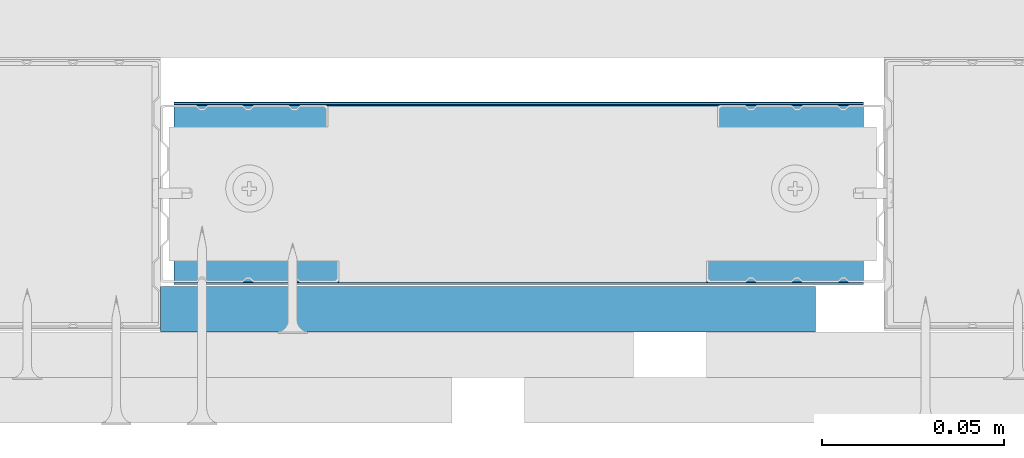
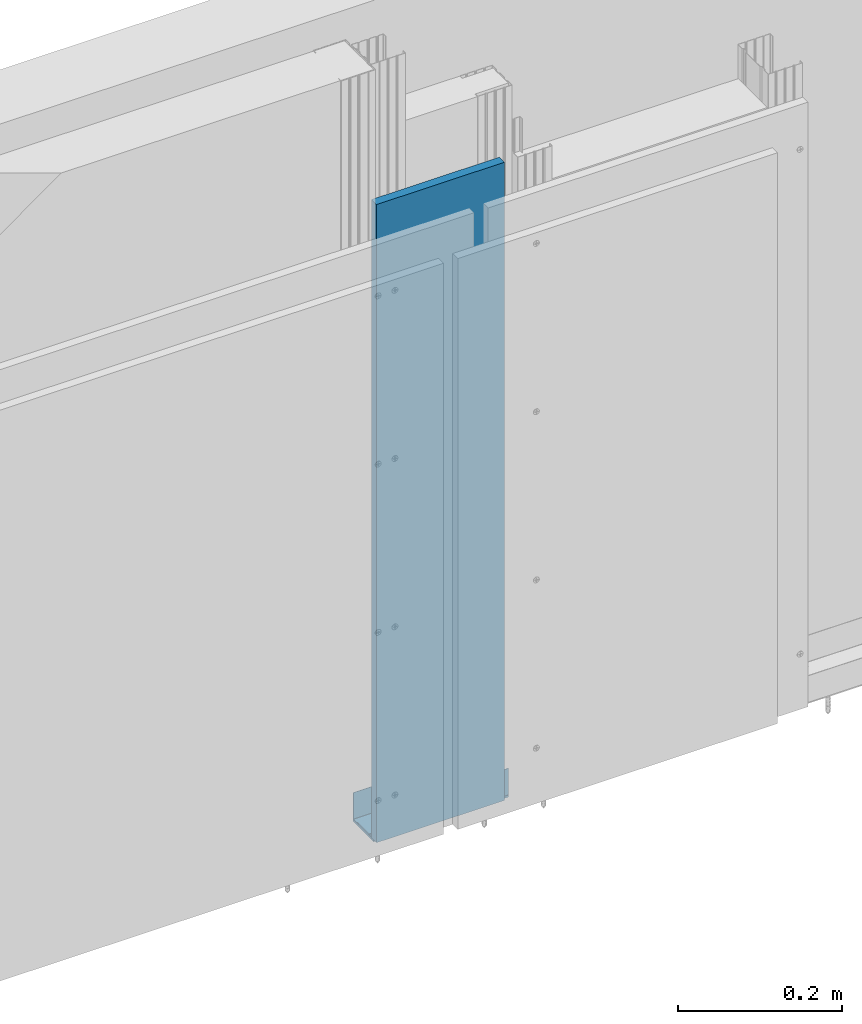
# One storey, part 4 of 39: 3 walls.
"""IFC2X3 building model written with IfcOpenShell, lengths in millimetres."""

from ifc_helpers import new_model, entity, si_unit, converted_unit, direction, frame, origin, origin_with_axes, place, context, project, spatial, faceted_brep, element, save


model = new_model("IFC2X3")

# Units and contexts
model_context = context("Model", 3, precision=1e-05, world=origin(), true_north=direction((0.0, 1.0, 0.0)))
ifc_project = project(units=[si_unit("LENGTHUNIT", "METRE", prefix="MILLI"), si_unit("AREAUNIT", "SQUARE_METRE"), si_unit("VOLUMEUNIT", "CUBIC_METRE"), converted_unit("PLANEANGLEUNIT", "DEGREE", entity("IfcPlaneAngleMeasure", 0.01745), si_unit("PLANEANGLEUNIT", "RADIAN"), dimensions=[0, 0, 0, 0, 0, 0, 0]), si_unit("SOLIDANGLEUNIT", "STERADIAN"), si_unit("MASSUNIT", "GRAM"), si_unit("TIMEUNIT", "SECOND"), si_unit("THERMODYNAMICTEMPERATUREUNIT", "DEGREE_CELSIUS"), si_unit("LUMINOUSINTENSITYUNIT", "LUMEN")], contexts=[model_context])

# Site, building, storey
site_placement = place(None, origin_with_axes())
site = spatial("IfcSite", under=ifc_project, at=site_placement, Name="Default Site", CompositionType="ELEMENT")
building_placement = place(site_placement, origin_with_axes())
building = spatial("IfcBuilding", under=site, at=building_placement, Name="Default Building", CompositionType="ELEMENT")
storey_placement = place(building_placement, origin_with_axes())
storey = spatial("IfcBuildingStorey", under=building, at=storey_placement, Name="Default Building Storey", CompositionType="ELEMENT", Elevation=0.0)

# Walls
wall_1_placement = place(storey_placement, frame((3688.213545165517, 1959.291292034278, 1059.999999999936), z_axis=(0.0, 0.0, 1.0), x_axis=(-1.0, 6.389333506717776e-13, 0.0)))
element("IfcWall", 1, at=wall_1_placement, inside=storey, Name="Płyta gipsowo-kartonowa RIGIPS PRO (4PRO™)", context=model_context, shape_type="Brep", body=[
    faceted_brep([(597.2812369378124, -4.078799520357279e-10, -101.6096039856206), (597.2812369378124, 12.49999999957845, -101.6096039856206), (597.2812369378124, 12.49999999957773, -1050.001581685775), (597.2812369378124, -4.086018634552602e-10, -1050.001581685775), (777.2895112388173, 12.49999999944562, -101.6096039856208), (777.2895112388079, -5.26634380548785e-10, -101.6096039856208), (777.289511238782, -5.24107690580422e-10, -1050.001581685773), (777.2895112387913, 12.49999999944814, -1050.001581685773)], [[[0, 1, 2, 3]], [[4, 5, 6, 7]], [[4, 1, 0, 5]], [[7, 2, 1, 4]], [[0, 3, 6, 5]], [[6, 3, 2, 7]]]),
])
wall_2_placement = place(storey_placement, frame((3071.819772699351, 5440.048618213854, 10.38580944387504), z_axis=(7.620176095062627e-14, -6.858158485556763e-13, 1.0), x_axis=(1.0, -9.714451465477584e-17, -7.620176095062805e-14)))
element("IfcWall", 2, at=wall_2_placement, inside=storey, Name="Profil RIGIPS UW 50 ULTRASTIL®", context=model_context, shape_type="Brep", body=[
    faceted_brep([(32.2295371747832, -3480.283223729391, -4.200000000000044), (32.22953717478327, -3480.283223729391, 35.0), (32.22953717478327, -3479.733223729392, 35.0), (32.2295371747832, -3479.733223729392, -4.200000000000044), (32.2295371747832, -3479.730145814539, -4.239108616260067), (32.2295371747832, -3479.720987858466, -4.277254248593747), (32.2295371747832, -3479.705975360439, -4.313497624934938), (32.2295371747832, -3479.685477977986, -4.346946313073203), (32.2295371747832, -3479.660000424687, -4.376776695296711), (32.2295371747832, -3479.630170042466, -4.402254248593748), (32.2295371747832, -3479.596721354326, -4.422751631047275), (32.2295371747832, -3479.560477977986, -4.43776412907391), (32.2295371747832, -3479.522332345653, -4.44692208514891), (32.2295371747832, -3479.483223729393, -4.450000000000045), (32.2295371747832, -3471.252589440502, -4.450000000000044), (32.2295371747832, -3471.030892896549, -4.425115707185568), (32.2295371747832, -3470.820229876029, -4.3517012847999), (32.2295371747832, -3470.631084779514, -4.233410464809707), (32.2295371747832, -3470.472871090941, -4.076130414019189), (32.2295371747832, -3470.353462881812, -3.887688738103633), (32.22953717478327, -3470.024693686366, -3.212311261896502), (32.22953717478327, -3469.905285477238, -3.023869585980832), (32.22953717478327, -3469.55792669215, -2.748298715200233), (32.22953717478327, -3469.347263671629, -2.674884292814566), (32.22953717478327, -3469.125567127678, -2.649999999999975), (32.22953717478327, -3441.440880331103, -2.650000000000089), (32.22953717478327, -3441.219183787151, -2.674884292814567), (32.22953717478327, -3440.819375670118, -2.866589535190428), (32.22953717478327, -3440.661161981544, -3.023869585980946), (32.22953717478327, -3440.541753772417, -3.212311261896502), (32.2295371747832, -3440.212984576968, -3.887688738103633), (32.2295371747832, -3440.093576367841, -4.076130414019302), (32.2295371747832, -3439.935362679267, -4.233410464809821), (32.2295371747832, -3439.746217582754, -4.3517012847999), (32.2295371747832, -3439.535554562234, -4.425115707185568), (32.2295371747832, -3439.313858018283, -4.450000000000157), (32.2295371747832, -3431.083223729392, -4.450000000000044), (32.2295371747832, -3431.044115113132, -4.446922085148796), (32.2295371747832, -3431.005969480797, -4.437764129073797), (32.2295371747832, -3430.969726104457, -4.42275163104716), (32.2295371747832, -3430.936277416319, -4.402254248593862), (32.2295371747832, -3430.906447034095, -4.376776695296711), (32.2295371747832, -3430.880969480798, -4.346946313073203), (32.2295371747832, -3430.860472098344, -4.313497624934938), (32.2295371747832, -3430.845459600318, -4.277254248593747), (32.2295371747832, -3430.836301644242, -4.239108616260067), (32.2295371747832, -3430.833223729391, -4.200000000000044), (32.22953717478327, -3430.833223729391, 35.0), (32.22953717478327, -3430.283223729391, 35.0), (32.2295371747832, -3430.283223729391, -4.200000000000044), (32.2295371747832, -3430.293073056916, -4.325147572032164), (32.2295371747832, -3430.322378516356, -4.447213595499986), (32.22953717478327, -3430.370418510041, -4.563192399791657), (32.22953717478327, -3430.436010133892, -4.670228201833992), (32.22953717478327, -3430.517538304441, -4.765685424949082), (32.22953717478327, -3430.612995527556, -4.847213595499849), (32.22953717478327, -3430.720031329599, -4.912805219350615), (32.22953717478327, -3430.836010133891, -4.960845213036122), (32.22953717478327, -3430.958076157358, -4.990150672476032), (32.22953717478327, -3431.083223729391, -4.999999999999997), (32.22953717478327, -3439.657826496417, -4.999999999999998), (32.22953717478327, -3439.879523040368, -4.975115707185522), (32.22953717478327, -3440.279331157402, -4.783410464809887), (32.22953717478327, -3440.437544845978, -4.626130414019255), (32.2295371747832, -3440.556953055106, -4.437688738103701), (32.22953717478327, -3440.885722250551, -3.762311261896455), (32.22953717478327, -3441.005130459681, -3.573869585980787), (32.22953717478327, -3441.163344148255, -3.416589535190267), (32.22953717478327, -3441.352489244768, -3.298298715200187), (32.22953717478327, -3441.563152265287, -3.22488429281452), (32.22953717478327, -3441.78484880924, -3.199999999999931), (32.22953717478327, -3468.781598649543, -3.200000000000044), (32.22953717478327, -3469.003295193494, -3.22488429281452), (32.22953717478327, -3469.213958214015, -3.298298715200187), (32.22953717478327, -3469.403103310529, -3.41658953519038), (32.22953717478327, -3469.561316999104, -3.5738695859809), (32.22953717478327, -3469.680725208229, -3.762311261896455), (32.2295371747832, -3470.009494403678, -4.437688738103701), (32.22953717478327, -3470.128902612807, -4.626130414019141), (32.22953717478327, -3470.476261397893, -4.901701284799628), (32.22953717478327, -3470.686924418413, -4.975115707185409), (32.22953717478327, -3470.908620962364, -4.999999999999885), (32.22953717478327, -3479.483223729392, -4.999999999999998), (32.22953717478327, -3479.608371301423, -4.990150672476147), (32.22953717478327, -3479.730437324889, -4.960845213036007), (32.22953717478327, -3479.846416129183, -4.912805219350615), (32.22953717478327, -3479.953451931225, -4.847213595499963), (32.22953717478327, -3480.04890915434, -4.765685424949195), (32.22953717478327, -3480.130437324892, -4.670228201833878), (32.22953717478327, -3480.196028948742, -4.563192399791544), (32.2295371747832, -3480.244068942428, -4.447213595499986), (32.2295371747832, -3480.273374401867, -4.325147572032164), (-157.2041323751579, -3479.733223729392, 35.00000000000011), (-157.2041323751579, -3480.283223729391, 35.00000000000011), (-157.2041323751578, -3480.283223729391, -4.199999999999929), (-157.2041323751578, -3480.273374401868, -4.32514757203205), (-157.2041323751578, -3480.244068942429, -4.447213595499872), (-157.2041323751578, -3480.196028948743, -4.56319239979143), (-157.2041323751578, -3480.130437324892, -4.670228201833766), (-157.2041323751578, -3480.04890915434, -4.765685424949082), (-157.2041323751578, -3479.953451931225, -4.847213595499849), (-157.2041323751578, -3479.846416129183, -4.9128052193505), (-157.2041323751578, -3479.730437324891, -4.960845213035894), (-157.2041323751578, -3479.608371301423, -4.990150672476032), (-157.2041323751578, -3479.483223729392, -4.999999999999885), (-157.2041323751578, -3470.908620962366, -4.999999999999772), (-157.2041323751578, -3470.686924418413, -4.975115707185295), (-157.2041323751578, -3470.476261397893, -4.901701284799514), (-157.2041323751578, -3470.128902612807, -4.626130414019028), (-157.2041323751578, -3470.009494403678, -4.437688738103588), (-157.2041323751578, -3469.680725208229, -3.762311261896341), (-157.2041323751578, -3469.561316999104, -3.573869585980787), (-157.2041323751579, -3469.403103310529, -3.416589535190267), (-157.2041323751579, -3469.213958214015, -3.298298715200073), (-157.2041323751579, -3469.003295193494, -3.224884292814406), (-157.2041323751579, -3468.781598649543, -3.19999999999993), (-157.2041323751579, -3441.78484880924, -3.199999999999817), (-157.2041323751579, -3441.563152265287, -3.224884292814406), (-157.2041323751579, -3441.352489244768, -3.298298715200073), (-157.2041323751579, -3441.163344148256, -3.416589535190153), (-157.2041323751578, -3441.005130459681, -3.573869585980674), (-157.2041323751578, -3440.885722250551, -3.762311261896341), (-157.2041323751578, -3440.556953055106, -4.437688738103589), (-157.2041323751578, -3440.437544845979, -4.626130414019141), (-157.2041323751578, -3440.279331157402, -4.783410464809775), (-157.2041323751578, -3439.87952304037, -4.97511570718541), (-157.2041323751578, -3439.657826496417, -4.999999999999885), (-157.2041323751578, -3431.083223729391, -4.999999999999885), (-157.2041323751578, -3430.95807615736, -4.990150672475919), (-157.2041323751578, -3430.836010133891, -4.960845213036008), (-157.2041323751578, -3430.720031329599, -4.9128052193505), (-157.2041323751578, -3430.612995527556, -4.847213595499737), (-157.2041323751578, -3430.517538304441, -4.765685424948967), (-157.2041323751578, -3430.436010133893, -4.670228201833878), (-157.2041323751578, -3430.370418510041, -4.563192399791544), (-157.2041323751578, -3430.322378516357, -4.447213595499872), (-157.2041323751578, -3430.293073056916, -4.32514757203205), (-157.2041323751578, -3430.283223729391, -4.199999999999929), (-157.2041323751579, -3430.283223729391, 35.00000000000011), (-157.2041323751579, -3430.833223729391, 35.00000000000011), (-157.2041323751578, -3430.833223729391, -4.199999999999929), (-157.2041323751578, -3430.836301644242, -4.239108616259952), (-157.2041323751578, -3430.845459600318, -4.277254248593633), (-157.2041323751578, -3430.860472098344, -4.313497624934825), (-157.2041323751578, -3430.880969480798, -4.346946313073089), (-157.2041323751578, -3430.906447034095, -4.376776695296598), (-157.2041323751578, -3430.936277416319, -4.402254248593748), (-157.2041323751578, -3430.969726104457, -4.422751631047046), (-157.2041323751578, -3431.005969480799, -4.437764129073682), (-157.2041323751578, -3431.044115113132, -4.446922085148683), (-157.2041323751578, -3431.083223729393, -4.44999999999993), (-157.2041323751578, -3439.313858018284, -4.450000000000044), (-157.2041323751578, -3439.535554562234, -4.425115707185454), (-157.2041323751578, -3439.746217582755, -4.351701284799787), (-157.2041323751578, -3439.935362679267, -4.233410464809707), (-157.2041323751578, -3440.093576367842, -4.076130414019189), (-157.2041323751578, -3440.21298457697, -3.887688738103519), (-157.2041323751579, -3440.541753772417, -3.212311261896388), (-157.2041323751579, -3440.661161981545, -3.023869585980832), (-157.2041323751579, -3440.819375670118, -2.866589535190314), (-157.2041323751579, -3441.219183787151, -2.674884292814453), (-157.2041323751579, -3441.440880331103, -2.649999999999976), (-157.2041323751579, -3469.125567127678, -2.649999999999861), (-157.2041323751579, -3469.34726367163, -2.674884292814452), (-157.2041323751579, -3469.55792669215, -2.74829871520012), (-157.2041323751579, -3469.905285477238, -3.023869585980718), (-157.2041323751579, -3470.024693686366, -3.212311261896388), (-157.2041323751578, -3470.353462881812, -3.88768873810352), (-157.2041323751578, -3470.472871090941, -4.076130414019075), (-157.2041323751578, -3470.631084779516, -4.233410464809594), (-157.2041323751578, -3470.820229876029, -4.351701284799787), (-157.2041323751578, -3471.030892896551, -4.425115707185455), (-157.2041323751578, -3471.252589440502, -4.449999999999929), (-157.2041323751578, -3479.483223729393, -4.449999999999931), (-157.2041323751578, -3479.522332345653, -4.446922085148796), (-157.2041323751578, -3479.560477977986, -4.437764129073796), (-157.2041323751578, -3479.596721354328, -4.42275163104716), (-157.2041323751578, -3479.630170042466, -4.402254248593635), (-157.2041323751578, -3479.660000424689, -4.376776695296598), (-157.2041323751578, -3479.685477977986, -4.346946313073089), (-157.2041323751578, -3479.705975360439, -4.313497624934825), (-157.2041323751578, -3479.720987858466, -4.277254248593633), (-157.2041323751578, -3479.730145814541, -4.239108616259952), (-157.2041323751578, -3479.733223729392, -4.199999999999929), (-157.2041323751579, -3441.008520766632, -2.748298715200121), (32.22953717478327, -3441.008520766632, -2.748298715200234), (-157.2041323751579, -3469.747071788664, -2.866589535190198), (32.22953717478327, -3469.747071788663, -2.866589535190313), (-157.2041323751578, -3470.063927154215, -4.535249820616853), (32.2295371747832, -3470.063927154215, -4.535249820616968), (-157.2041323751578, -3470.287116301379, -4.783410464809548), (32.22953717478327, -3470.287116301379, -4.783410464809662), (-157.2041323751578, -3440.090186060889, -4.901701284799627), (32.22953717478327, -3440.090186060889, -4.901701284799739)], [[[0, 1, 2, 3, 4, 5, 6, 7, 8, 9, 10, 11, 12, 13, 14, 15, 16, 17, 18, 19, 20, 21, 22, 23, 24, 25, 26, 27, 28, 29, 30, 31, 32, 33, 34, 35, 36, 37, 38, 39, 40, 41, 42, 43, 44, 45, 46, 47, 48, 49, 50, 51, 52, 53, 54, 55, 56, 57, 58, 59, 60, 61, 62, 63, 64, 65, 66, 67, 68, 69, 70, 71, 72, 73, 74, 75, 76, 77, 78, 79, 80, 81, 82, 83, 84, 85, 86, 87, 88, 89, 90, 91]], [[92, 93, 94, 95, 96, 97, 98, 99, 100, 101, 102, 103, 104, 105, 106, 107, 108, 109, 110, 111, 112, 113, 114, 115, 116, 117, 118, 119, 120, 121, 122, 123, 124, 125, 126, 127, 128, 129, 130, 131, 132, 133, 134, 135, 136, 137, 138, 139, 140, 141, 142, 143, 144, 145, 146, 147, 148, 149, 150, 151, 152, 153, 154, 155, 156, 157, 158, 159, 160, 161, 162, 163, 164, 165, 166, 167, 168, 169, 170, 171, 172, 173, 174, 175, 176, 177, 178, 179, 180, 181, 182, 183]], [[137, 49, 48, 138]], [[138, 48, 47, 139]], [[139, 47, 46, 140]], [[36, 150, 149, 37]], [[148, 38, 37, 149]], [[147, 39, 38, 148]], [[39, 147, 146, 40]], [[145, 41, 40, 146]], [[41, 145, 144, 42]], [[143, 43, 42, 144]], [[142, 44, 43, 143]], [[44, 142, 141, 45]], [[140, 46, 45, 141]], [[150, 36, 35, 151]], [[155, 31, 30, 156]], [[154, 32, 31, 155]], [[153, 33, 32, 154]], [[35, 34, 152, 151]], [[152, 34, 33, 153]], [[156, 30, 29, 157]], [[160, 26, 25, 161]], [[184, 185, 26, 160]], [[159, 27, 185, 184]], [[158, 28, 27, 159]], [[29, 28, 158, 157]], [[161, 25, 24, 162]], [[165, 21, 20, 166]], [[186, 187, 21, 165]], [[164, 22, 187, 186]], [[163, 23, 22, 164]], [[24, 23, 163, 162]], [[166, 20, 19, 167]], [[171, 15, 14, 172]], [[170, 16, 15, 171]], [[169, 17, 16, 170]], [[19, 18, 168, 167]], [[168, 18, 17, 169]], [[172, 14, 13, 173]], [[3, 183, 182, 4]], [[181, 5, 4, 182]], [[180, 6, 5, 181]], [[6, 180, 179, 7]], [[178, 8, 7, 179]], [[8, 178, 177, 9]], [[176, 10, 9, 177]], [[175, 11, 10, 176]], [[11, 175, 174, 12]], [[173, 13, 12, 174]], [[183, 3, 2, 92]], [[92, 2, 1, 93]], [[93, 1, 0, 94]], [[103, 102, 84, 83]], [[83, 82, 104, 103]], [[101, 85, 84, 102]], [[100, 99, 87, 86]], [[86, 85, 101, 100]], [[98, 97, 89, 88]], [[88, 87, 99, 98]], [[96, 90, 89, 97]], [[95, 94, 0, 91]], [[91, 90, 96, 95]], [[104, 82, 81, 105]], [[188, 108, 78, 189]], [[189, 77, 109, 188]], [[190, 191, 78, 108]], [[107, 79, 191, 190]], [[106, 80, 79, 107]], [[81, 80, 106, 105]], [[109, 77, 76, 110]], [[114, 72, 71, 115]], [[113, 73, 72, 114]], [[112, 74, 73, 113]], [[76, 75, 111, 110]], [[111, 75, 74, 112]], [[115, 71, 70, 116]], [[120, 66, 65, 121]], [[119, 67, 66, 120]], [[118, 68, 67, 119]], [[70, 69, 117, 116]], [[117, 69, 68, 118]], [[121, 65, 64, 122]], [[125, 61, 60, 126]], [[192, 193, 61, 125]], [[124, 62, 193, 192]], [[123, 63, 62, 124]], [[64, 63, 123, 122]], [[126, 60, 59, 127]], [[136, 135, 51, 50]], [[50, 49, 137, 136]], [[134, 52, 51, 135]], [[133, 132, 54, 53]], [[53, 52, 134, 133]], [[131, 130, 56, 55]], [[55, 54, 132, 131]], [[129, 57, 56, 130]], [[128, 127, 59, 58]], [[58, 57, 129, 128]]]),
])
wall_3_placement = place(storey_placement, frame((2614.59050685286, 1983.304549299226, 2.38402578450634), z_axis=(0.0, 0.0, 1.0), x_axis=(1.0, 0.0, 0.0)))
element("IfcWall", 3, at=wall_3_placement, inside=storey, Name="Taśma uszczelniająca piankowa RIGIPS", context=model_context, shape_type="Brep", body=[
    faceted_brep([(300.0251334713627, -23.50000002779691, 2.998418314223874), (489.4588030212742, -23.50000002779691, 2.998418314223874), (489.4588030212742, 26.69999997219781, 3.001783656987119), (300.0251334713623, 26.69999997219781, 3.001783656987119), (300.0251334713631, -23.50000002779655, -9.256539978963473e-13), (489.4588030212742, -23.50000002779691, -9.256539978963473e-13), (300.0251334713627, 26.69999997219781, 0.001783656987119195), (489.4588030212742, 26.69999997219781, 0.001783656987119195)], [[[0, 1, 2, 3]], [[1, 0, 4, 5]], [[5, 4, 6, 7]], [[3, 6, 4, 0]], [[7, 6, 3, 2]], [[2, 1, 5, 7]]]),
])

save(model, "model.ifc")
